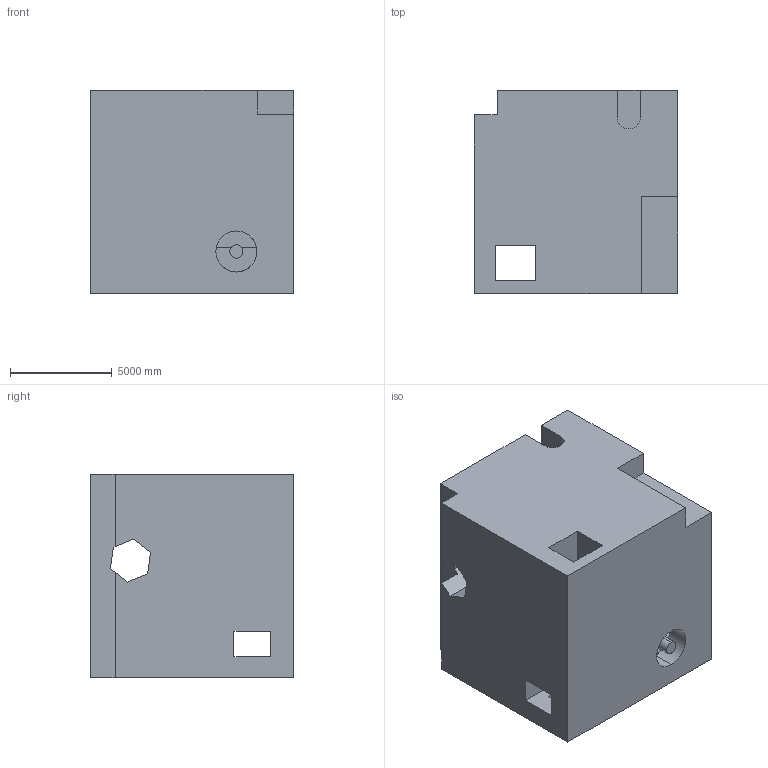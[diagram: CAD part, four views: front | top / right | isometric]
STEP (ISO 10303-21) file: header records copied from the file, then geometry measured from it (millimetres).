
FILE_DESCRIPTION (( 'STEP AP203' ), '1' );
FILE_NAME ('763.STEP', '2022-07-29T13:02:27', ( 'user' ), ( '' ), 'SwSTEP 2.0', 'SolidWorks 2021', '' );
FILE_SCHEMA (( 'CONFIG_CONTROL_DESIGN' ));
Length unit declared in the file: centimetre
Products named in the file (1): 763
Bounding box: 10000 x 10000 x 10000 mm (x, y, z)
Volume: 884928100610.3 mm3; surface area: 777318638.1 mm2
Topology: 1 solids, 1 shells, 47 faces, 147 edges, 98 vertices
Faces by surface type: plane 42, cylinder 5
Entity records: 1712 total; most frequent: ORIENTED_EDGE 294, CARTESIAN_POINT 293, DIRECTION 257, EDGE_CURVE 147, VECTOR 133, LINE 133, VERTEX_POINT 98, AXIS2_PLACEMENT_3D 62
